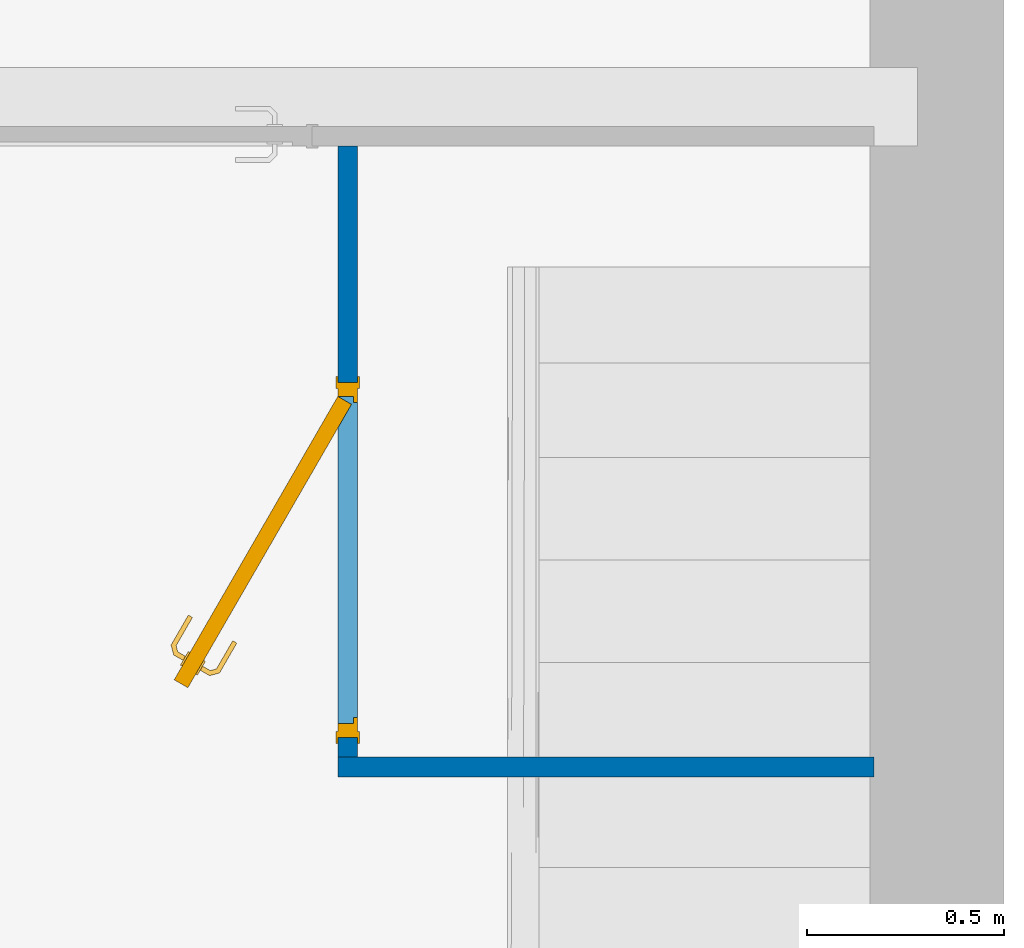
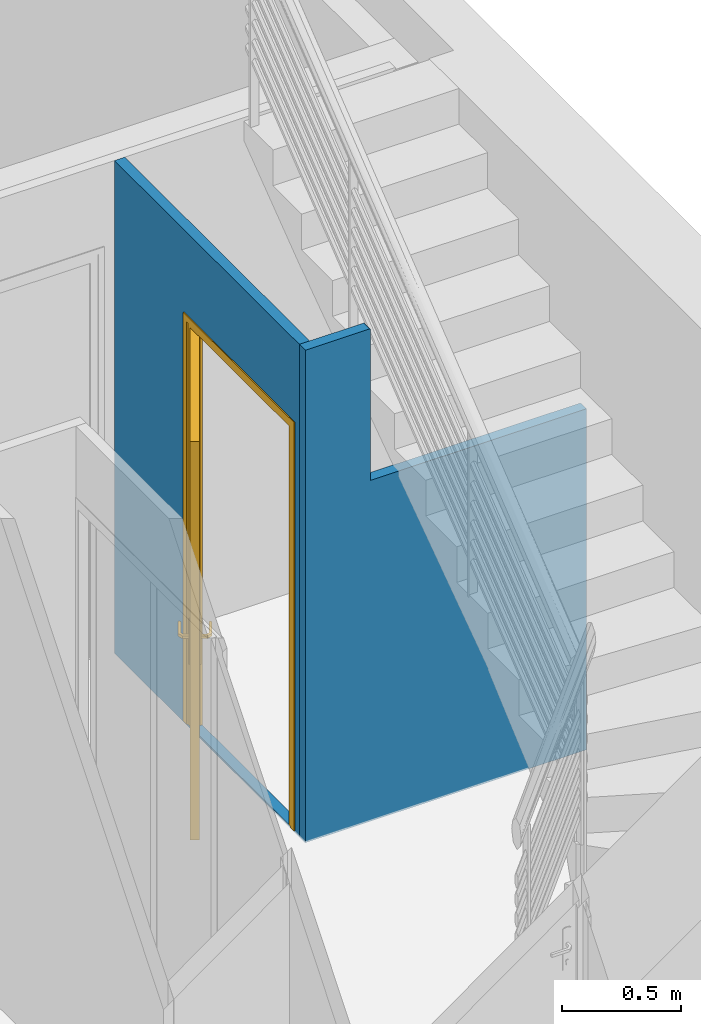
# One storey, part 4 of 9: 2 walls, 1 door, 3 openings.
"""IFC2X3 building model written with IfcOpenShell, lengths in metres."""

from ifc_helpers import new_model, entity, si_unit, converted_unit, derived_unit, direction, frame, frame_2d, origin, place, context, subcontext, project, spatial, polyline, rectangle, outline, extrude, faceted_brep, source, transform, mapped, material, material_list, layer, layer_set, layer_usage, type_object, type_shapes, element, fill, save


model = new_model("IFC2X3")

# Units and contexts
model_context = context("Model", 3, precision=1e-05, world=origin(), true_north=direction((6.12303176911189e-17, 1.0)))
body_context = subcontext(model_context, "Body", "Model", "MODEL_VIEW")
ifc_project = project(units=[si_unit("LENGTHUNIT", "METRE"), si_unit("AREAUNIT", "SQUARE_METRE"), si_unit("VOLUMEUNIT", "CUBIC_METRE"), converted_unit("PLANEANGLEUNIT", "DEGREE", entity("IfcRatioMeasure", 0.0174532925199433), si_unit("PLANEANGLEUNIT", "RADIAN"), dimensions=[0, 0, 0, 0, 0, 0, 0]), si_unit("MASSUNIT", "GRAM", prefix="KILO"), si_unit("TIMEUNIT", "SECOND"), si_unit("FREQUENCYUNIT", "HERTZ"), si_unit("THERMODYNAMICTEMPERATUREUNIT", "DEGREE_CELSIUS"), derived_unit("THERMALTRANSMITTANCEUNIT", [(si_unit("MASSUNIT", "GRAM", prefix="KILO"), 1), (si_unit("THERMODYNAMICTEMPERATUREUNIT", "KELVIN"), -1), (si_unit("TIMEUNIT", "SECOND"), -3)]), derived_unit("VOLUMETRICFLOWRATEUNIT", [(si_unit("LENGTHUNIT", "METRE"), 3), (si_unit("TIMEUNIT", "SECOND"), -1)]), si_unit("ELECTRICCURRENTUNIT", "AMPERE"), si_unit("ELECTRICVOLTAGEUNIT", "VOLT"), si_unit("POWERUNIT", "WATT"), si_unit("FORCEUNIT", "NEWTON", prefix="KILO"), si_unit("ILLUMINANCEUNIT", "LUX"), si_unit("LUMINOUSFLUXUNIT", "LUMEN"), si_unit("LUMINOUSINTENSITYUNIT", "CANDELA"), derived_unit("USERDEFINED", [(si_unit("MASSUNIT", "GRAM", prefix="KILO"), -1), (si_unit("LENGTHUNIT", "METRE"), -2), (si_unit("TIMEUNIT", "SECOND"), 3), (si_unit("LUMINOUSFLUXUNIT", "LUMEN"), 1)]), derived_unit("LINEARVELOCITYUNIT", [(si_unit("LENGTHUNIT", "METRE"), 1), (si_unit("TIMEUNIT", "SECOND"), -1)]), si_unit("PRESSUREUNIT", "PASCAL"), derived_unit("USERDEFINED", [(si_unit("LENGTHUNIT", "METRE"), -2), (si_unit("MASSUNIT", "GRAM", prefix="KILO"), 1), (si_unit("TIMEUNIT", "SECOND"), -2)])], contexts=[model_context])

# Site, building, storey
site_placement = place(None, origin())
site = spatial("IfcSite", under=ifc_project, at=site_placement, Name="Surface", CompositionType="ELEMENT")
building_placement = place(site_placement, origin())
building = spatial("IfcBuilding", under=site, at=building_placement, CompositionType="ELEMENT")
storey_placement = place(building_placement, origin())
storey = spatial("IfcBuildingStorey", under=building, at=storey_placement, Name="Rez de chaussée", CompositionType="ELEMENT", Elevation=0.0)

# Wall, openings
ifc_material_1 = material(Name="Maçonnerie - Isolant(1)")
ifc_layer = layer(ifc_material_1, 0.05)
ifc_layer_set = layer_set([ifc_layer], Name="Mur de base:Int. plâtre 50 mm")
ifc_layer_usage_1 = layer_usage(ifc_layer_set, "AXIS2", "NEGATIVE", 0.025)
wall_type = type_object("IfcWallType", Name="Mur de base:Int. plâtre 50 mm", PredefinedType="STANDARD", material=ifc_layer_set)
wall_1_placement = place(storey_placement, frame((1.43391118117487, -0.0607442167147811, -0.00999999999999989), z_axis=(0.0, 0.0, 1.0), x_axis=(-1.0, 0.0, 0.0)))
wall_1 = element("IfcWallStandardCase", 1, at=wall_1_placement, inside=storey, type_object=wall_type, material=ifc_layer_usage_1, Name="Mur de base:Int. plâtre 50 mm", ObjectType="Mur de base:Int. plâtre 50 mm", context=body_context, shape_type="SweptSolid", body=[
    extrude(rectangle(XDim=1.35999999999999, YDim=0.05, at=frame_2d((0.679999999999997, -3.46944695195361e-18), x_axis=(-1.0, 0.0))), origin(), (0.0, 0.0, 1.0), 2.52),
])
opening_1_placement = place(wall_1_placement, origin())
element("IfcOpeningElement", 2, at=opening_1_placement, cuts=wall_1, Name="Mur de base:Int. plâtre 50 mm", ObjectType="Opening", context=body_context, shape_type="SweptSolid", body=[
    extrude(rectangle(XDim=3.12955139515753, YDim=6.25910279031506, at=frame_2d((-3.33066907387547e-16, -2.22044604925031e-16), x_axis=(1.0, 0.0))), frame((-1.21361778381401, -3.12955139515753, 2.92700669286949), z_axis=(0.0, 1.0, 0.0), x_axis=(0.540430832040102, 0.0, -0.841388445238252)), (0.0, 0.0, 1.0), 6.25910279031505),
])
opening_2_placement = place(wall_1_placement, origin())
element("IfcOpeningElement", 3, at=opening_2_placement, cuts=wall_1, Name="Mur de base:Int. plâtre 50 mm", ObjectType="Opening", context=body_context, shape_type="SweptSolid", body=[
    extrude(outline(polyline([(-0.515555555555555, -0.401330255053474), (0.257777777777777, -0.401330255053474), (0.257777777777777, 0.802660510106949), (-0.515555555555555, -0.401330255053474)])), frame((0.642660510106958, -0.025, 2.00177777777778), z_axis=(0.0, 1.0, 0.0), x_axis=(0.0, 0.0, -1.0)), (0.0, 0.0, 1.0), 0.05),
])

# Wall, opening, door
ifc_layer_usage_2 = layer_usage(ifc_layer_set, "AXIS2", "NEGATIVE", 0.025)
wall_2_placement = place(storey_placement, frame((0.0989111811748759, -0.0357442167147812, -0.00999999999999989), z_axis=(0.0, 0.0, 1.0), x_axis=(0.0, 1.0, 0.0)))
wall_2 = element("IfcWallStandardCase", 4, at=wall_2_placement, inside=storey, type_object=wall_type, material=ifc_layer_usage_2, Name="Mur de base:Int. plâtre 50 mm", ObjectType="Mur de base:Int. plâtre 50 mm", context=body_context, shape_type="SweptSolid", body=[
    extrude(rectangle(XDim=1.55, YDim=0.05, at=frame_2d((0.775000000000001, 0.0), x_axis=(-1.0, 0.0))), origin(), (0.0, 0.0, 1.0), 2.52),
])
opening_3_placement = place(wall_2_placement, frame((0.0500000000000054, -0.025, 0.00999999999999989)))
opening_3 = element("IfcOpeningElement", 5, at=opening_3_placement, cuts=wall_2, Name="Int. Simple:PP (0.83m x 2.04m):1", ObjectType="Opening", context=body_context, shape_type="SweptSolid", body=[
    extrude(rectangle(XDim=2.075, YDim=0.9, at=frame_2d((1.0375, 0.45), x_axis=(1.0, 0.0))), frame((0.0, 0.0, 0.0), z_axis=(0.0, 1.0, 0.0), x_axis=(0.0, 0.0, 1.0)), (0.0, 0.0, 1.0), 0.05),
])
ifc_material_2 = material(Name="Finition Peinture - Blanc satiné")
ifc_material_3 = material(Name="Bois - Panneau de porte")
ifc_material_4 = material(Name="Bois - Cadre de porte")
ifc_material_list_1 = material_list([ifc_material_2, ifc_material_3, ifc_material_4])
ifc_material_list_2 = material_list([ifc_material_2, ifc_material_3, ifc_material_4])
door_style = type_object("IfcDoorStyle", Name="PP (0.83m x 2.04m)", ConstructionType="NOTDEFINED", OperationType="SINGLE_SWING_RIGHT", ParameterTakesPrecedence=False, Sizeable=False, material=ifc_material_list_2)
shared_shape = source(origin(), body_context, "Body", "Brep", [
    faceted_brep([(0.786660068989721, -0.399330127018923, 0.870000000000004), (0.786660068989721, -0.399330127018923, 1.08), (0.778305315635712, -0.394506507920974, 1.08399601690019), (0.769339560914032, -0.389330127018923, 1.08535898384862), (0.760373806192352, -0.384153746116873, 1.08399601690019), (0.752019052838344, -0.379330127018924, 1.08), (0.752019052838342, -0.379330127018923, 0.870000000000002), (0.760373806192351, -0.384153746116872, 0.866003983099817), (0.769339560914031, -0.389330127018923, 0.86464101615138), (0.778305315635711, -0.394506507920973, 0.866003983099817), (0.789160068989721, -0.395000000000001, 1.08), (0.789160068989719, -0.395, 0.870000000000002), (0.780805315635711, -0.390176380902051, 0.866003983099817), (0.771839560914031, -0.385, 0.86464101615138), (0.76287380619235, -0.37982361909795, 0.866003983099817), (0.754519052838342, -0.375000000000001, 0.870000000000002), (0.754519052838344, -0.375000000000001, 1.08), (0.762873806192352, -0.379823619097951, 1.08399601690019), (0.771839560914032, -0.385000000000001, 1.08535898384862), (0.780805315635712, -0.390176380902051, 1.08399601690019)], [[[0, 1, 2, 3, 4, 5, 6, 7, 8, 9]], [[10, 11, 12, 13, 14, 15, 16, 17, 18, 19]], [[9, 12, 11, 0]], [[8, 13, 12, 9]], [[7, 14, 13, 8]], [[7, 6, 15, 14]], [[15, 6, 5, 16]], [[4, 17, 16, 5]], [[3, 18, 17, 4]], [[2, 19, 18, 3]], [[2, 1, 10, 19]], [[11, 10, 1, 0]]]),
    faceted_brep([(0.809160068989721, -0.360358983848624, 0.870000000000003), (0.809160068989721, -0.360358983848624, 1.08), (0.800805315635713, -0.355535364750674, 1.08399601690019), (0.791839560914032, -0.350358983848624, 1.08535898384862), (0.782873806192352, -0.345182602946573, 1.08399601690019), (0.774519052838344, -0.340358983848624, 1.08), (0.774519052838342, -0.340358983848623, 0.870000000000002), (0.782873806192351, -0.345182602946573, 0.866003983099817), (0.791839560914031, -0.350358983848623, 0.86464101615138), (0.800805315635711, -0.355535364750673, 0.866003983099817), (0.794339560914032, -0.346028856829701, 1.08535898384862), (0.803305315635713, -0.351205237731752, 1.08399601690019), (0.811660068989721, -0.356028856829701, 1.08), (0.811660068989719, -0.356028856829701, 0.870000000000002), (0.803305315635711, -0.351205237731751, 0.866003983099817), (0.794339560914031, -0.346028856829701, 0.86464101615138), (0.785373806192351, -0.34085247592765, 0.866003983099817), (0.777019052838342, -0.336028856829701, 0.870000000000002), (0.777019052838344, -0.336028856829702, 1.08), (0.785373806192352, -0.340852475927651, 1.08399601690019)], [[[0, 1, 2, 3, 4, 5, 6, 7, 8, 9]], [[10, 11, 12, 13, 14, 15, 16, 17, 18, 19]], [[4, 19, 18, 5]], [[3, 10, 19, 4]], [[2, 11, 10, 3]], [[2, 1, 12, 11]], [[13, 12, 1, 0]], [[9, 14, 13, 0]], [[8, 15, 14, 9]], [[7, 16, 15, 8]], [[7, 6, 17, 16]], [[17, 6, 5, 18]]]),
    faceted_brep([(0.767585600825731, -0.388317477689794, 1.00778044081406), (0.771093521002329, -0.390342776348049, 1.00778044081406), (0.774535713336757, -0.392330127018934, 1.00699999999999), (0.774535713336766, -0.392330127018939, 0.992999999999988), (0.771093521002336, -0.390342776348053, 0.99221955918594), (0.767585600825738, -0.388317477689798, 0.992219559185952), (0.764143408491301, -0.386330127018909, 0.993000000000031), (0.764143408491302, -0.38633012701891, 1.007), (0.758091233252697, -0.412863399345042, 1.00778044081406), (0.760710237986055, -0.416276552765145, 1.007), (0.755422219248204, -0.409385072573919, 1.00778044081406), (0.736740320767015, -0.414390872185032, 1.00778044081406), (0.73616805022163, -0.418737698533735, 1.00778044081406), (0.752803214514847, -0.405971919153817, 1.007), (0.752803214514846, -0.405971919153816, 0.993000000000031), (0.755422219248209, -0.409385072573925, 0.992219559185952), (0.758091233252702, -0.412863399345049, 0.99221955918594), (0.736168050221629, -0.418737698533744, 0.99221955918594), (0.736740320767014, -0.414390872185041, 0.992219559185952), (0.76071023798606, -0.416276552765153, 0.992999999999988), (0.735606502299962, -0.423003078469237, 1.007), (0.737301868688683, -0.410125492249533, 1.007), (0.737301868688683, -0.410125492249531, 0.993000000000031), (0.735606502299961, -0.423003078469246, 0.992999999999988), (0.659706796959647, -0.37918236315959, 1.007), (0.661694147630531, -0.375740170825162, 1.00778044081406), (0.663719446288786, -0.372232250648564, 1.00778044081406), (0.665706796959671, -0.368790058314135, 1.00699999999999), (0.665706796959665, -0.368790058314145, 0.993000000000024), (0.663719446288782, -0.372232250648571, 0.992219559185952), (0.661694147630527, -0.375740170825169, 0.99221955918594), (0.659706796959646, -0.379182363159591, 0.992999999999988), (0.699217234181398, -0.395065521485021, 1.0078786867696), (0.70102568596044, -0.403037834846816, 1.007), (0.701504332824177, -0.389457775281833, 1.007), (0.701504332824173, -0.389457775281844, 0.993000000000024), (0.699217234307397, -0.395065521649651, 0.992121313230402), (0.701025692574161, -0.403037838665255, 0.992999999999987)], [[[0, 1, 2, 3, 4, 5, 6, 7]], [[2, 1, 8, 9]], [[1, 0, 10, 11, 12, 8]], [[0, 7, 13, 10]], [[14, 13, 7, 6]], [[5, 15, 14, 6]], [[5, 4, 16, 17, 18, 15]], [[3, 19, 16, 4]], [[9, 19, 3, 2]], [[9, 8, 12, 20]], [[10, 13, 21, 11]], [[22, 21, 13, 14]], [[14, 15, 18, 22]], [[16, 19, 23, 17]], [[20, 23, 19, 9]], [[24, 25, 26, 27, 28, 29, 30, 31]], [[32, 25, 33]], [[33, 25, 24]], [[33, 20, 12]], [[11, 34, 32]], [[34, 11, 21]], [[27, 26, 34]], [[32, 26, 25]], [[32, 34, 26]], [[32, 33, 12]], [[11, 32, 12]], [[21, 22, 35, 28, 27, 34]], [[36, 29, 35]], [[30, 36, 37]], [[18, 35, 22]], [[29, 28, 35]], [[30, 37, 31]], [[37, 17, 23]], [[36, 17, 37]], [[36, 18, 17]], [[36, 35, 18]], [[29, 36, 30]], [[23, 20, 33, 24, 31, 37]]]),
    faceted_brep([(0.792585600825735, -0.345016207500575, 0.992219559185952), (0.796093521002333, -0.34704150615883, 0.99221955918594), (0.799535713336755, -0.349028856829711, 0.992999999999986), (0.799535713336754, -0.34902885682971, 1.007), (0.796093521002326, -0.347041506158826, 1.00778044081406), (0.792585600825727, -0.345016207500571, 1.00778044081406), (0.789143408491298, -0.343028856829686, 1.007), (0.789143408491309, -0.343028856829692, 0.993000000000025), (0.8003860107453, -0.323556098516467, 1.007), (0.800386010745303, -0.323556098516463, 0.993000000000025), (0.804651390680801, -0.324117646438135, 1.00778044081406), (0.808998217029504, -0.32468991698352, 1.00778044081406), (0.803073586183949, -0.302578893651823, 1.00778044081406), (0.799595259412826, -0.305247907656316, 1.00778044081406), (0.813263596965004, -0.325251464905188, 1.007), (0.813263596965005, -0.325251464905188, 0.992999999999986), (0.808998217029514, -0.324689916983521, 0.99221955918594), (0.804651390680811, -0.324117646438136, 0.992219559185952), (0.799595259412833, -0.30524790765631, 0.992219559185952), (0.803073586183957, -0.302578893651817, 0.99221955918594), (0.796182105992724, -0.307866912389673, 1.007), (0.796182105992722, -0.307866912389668, 0.993000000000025), (0.80648673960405, -0.299959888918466, 1.007), (0.806486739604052, -0.299959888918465, 0.992999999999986), (0.726669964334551, -0.263144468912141, 1.00778044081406), (0.728695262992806, -0.259636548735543, 1.00778044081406), (0.730682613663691, -0.256194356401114, 1.007), (0.730682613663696, -0.256194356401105, 0.992999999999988), (0.72869526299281, -0.259636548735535, 0.99221955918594), (0.726669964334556, -0.263144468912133, 0.992219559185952), (0.724682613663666, -0.26658666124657, 0.993000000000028), (0.724682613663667, -0.266586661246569, 1.007), (0.760432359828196, -0.287226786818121, 1.007), (0.760432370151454, -0.28722679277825, 0.993000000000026), (0.764145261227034, -0.282442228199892, 1.0078786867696), (0.771905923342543, -0.279994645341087, 1.007), (0.771905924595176, -0.279994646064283, 0.992999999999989), (0.764145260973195, -0.282442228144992, 0.992121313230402)], [[[0, 1, 2, 3, 4, 5, 6, 7]], [[8, 9, 7, 6]], [[5, 10, 8, 6]], [[5, 4, 11, 12, 13, 10]], [[3, 14, 11, 4]], [[14, 3, 2, 15]], [[2, 1, 16, 15]], [[1, 0, 17, 18, 19, 16]], [[0, 7, 9, 17]], [[20, 21, 9, 8]], [[8, 10, 13, 20]], [[14, 22, 12, 11]], [[23, 22, 14, 15]], [[15, 16, 19, 23]], [[17, 9, 21, 18]], [[24, 25, 26, 27, 28, 29, 30, 31]], [[21, 20, 32, 31, 30, 33]], [[34, 24, 32]], [[25, 34, 35]], [[13, 32, 20]], [[24, 31, 32]], [[25, 35, 26]], [[35, 12, 22]], [[34, 12, 35]], [[34, 13, 12]], [[34, 32, 13]], [[24, 34, 25]], [[22, 23, 36, 27, 26, 35]], [[37, 28, 36]], [[36, 28, 27]], [[36, 23, 19]], [[18, 33, 37]], [[33, 18, 21]], [[30, 29, 33]], [[37, 29, 28]], [[37, 33, 29]], [[37, 36, 19]], [[18, 37, 19]]]),
    faceted_brep([(0.843801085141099, -0.380358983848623, 2.04), (0.843801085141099, -0.380358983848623, 0.0), (0.125000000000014, 0.0346410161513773, 0.0), (0.125000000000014, 0.0346410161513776, 2.04), (0.823801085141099, -0.415, 2.04), (0.105000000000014, 0.0, 2.04), (0.105000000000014, 0.0, 0.0), (0.823801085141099, -0.415, 0.0)], [[[0, 1, 2, 3]], [[4, 5, 6, 7]], [[3, 5, 4, 0]], [[2, 6, 5, 3]], [[1, 7, 6, 2]], [[0, 4, 7, 1]]]),
    faceted_brep([(0.970000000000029, 0.0, 0.0), (0.935000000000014, 0.0, 0.0), (0.935000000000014, 0.040000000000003, 0.0), (0.920000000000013, 0.040000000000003, 0.0), (0.920000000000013, 0.050000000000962, 0.0), (0.970000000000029, 0.050000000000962, 0.0), (0.970000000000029, 0.050000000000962, 2.07500000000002), (0.970000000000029, 0.0, 2.07500000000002), (0.920000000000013, 0.050000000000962, 2.025), (0.120000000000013, 0.050000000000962, 2.025), (0.120000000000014, 0.050000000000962, 0.0), (0.0699999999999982, 0.050000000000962, 0.0), (0.0699999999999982, 0.050000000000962, 2.07500000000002), (0.920000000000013, 0.040000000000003, 2.025), (0.935000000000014, 0.040000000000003, 2.04), (0.105000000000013, 0.040000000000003, 2.04), (0.105000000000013, 0.040000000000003, 0.0), (0.120000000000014, 0.040000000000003, 0.0), (0.120000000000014, 0.040000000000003, 2.025), (0.935000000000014, 0.0, 2.04), (0.069999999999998, 0.0, 2.07500000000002), (0.0699999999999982, 0.0, 0.0), (0.105000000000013, 0.0, 0.0), (0.105000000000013, 0.0, 2.04)], [[[0, 1, 2, 3, 4, 5]], [[5, 6, 7, 0]], [[4, 8, 9, 10, 11, 12, 6, 5]], [[3, 13, 8, 4]], [[2, 14, 15, 16, 17, 18, 13, 3]], [[1, 19, 14, 2]], [[0, 7, 20, 21, 22, 23, 19, 1]], [[12, 11, 21, 20]], [[21, 11, 10, 17, 16, 22]], [[18, 17, 10, 9]], [[23, 22, 16, 15]], [[6, 12, 20, 7]], [[13, 18, 9, 8]], [[19, 23, 15, 14]]]),
    faceted_brep([(0.955000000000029, 0.050000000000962, 0.0), (0.955000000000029, 0.055000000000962, 0.0), (0.985000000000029, 0.055000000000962, 0.0), (0.985000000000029, 0.050000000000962, 0.0), (0.985000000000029, 0.050000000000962, 2.09000000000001), (0.0550000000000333, 0.050000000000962, 2.09000000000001), (0.0550000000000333, 0.050000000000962, 0.0), (0.0850000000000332, 0.050000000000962, 0.0), (0.0850000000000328, 0.050000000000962, 2.06000000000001), (0.955000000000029, 0.050000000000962, 2.06000000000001), (0.985000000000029, 0.055000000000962, 2.09000000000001), (0.955000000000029, 0.055000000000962, 2.06000000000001), (0.0850000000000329, 0.055000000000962, 2.06000000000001), (0.0850000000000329, 0.055000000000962, 0.0), (0.055000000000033, 0.055000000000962, 0.0), (0.0550000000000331, 0.055000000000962, 2.09000000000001)], [[[0, 1, 2, 3]], [[3, 4, 5, 6, 7, 8, 9, 0]], [[2, 10, 4, 3]], [[1, 11, 12, 13, 14, 15, 10, 2]], [[0, 9, 11, 1]], [[7, 6, 14, 13]], [[8, 7, 13, 12]], [[15, 14, 6, 5]], [[10, 15, 5, 4]], [[9, 8, 12, 11]]]),
    faceted_brep([(0.985000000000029, -0.005, 0.0), (0.985000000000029, -0.005, 2.09000000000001), (0.0550000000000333, -0.005, 2.09000000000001), (0.0550000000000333, -0.005, 0.0), (0.0850000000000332, -0.005, 0.0), (0.0850000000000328, -0.005, 2.06000000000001), (0.955000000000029, -0.005, 2.06000000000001), (0.955000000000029, -0.005, 0.0), (0.985000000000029, 0.0, 0.0), (0.985000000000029, 0.0, 2.09000000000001), (0.955000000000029, 0.0, 0.0), (0.955000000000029, 0.0, 2.06000000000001), (0.0850000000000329, 0.0, 2.06000000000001), (0.0850000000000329, 0.0, 0.0), (0.055000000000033, 0.0, 0.0), (0.0550000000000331, 0.0, 2.09000000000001)], [[[0, 1, 2, 3, 4, 5, 6, 7]], [[8, 9, 1, 0]], [[10, 11, 12, 13, 14, 15, 9, 8]], [[7, 6, 11, 10]], [[5, 4, 13, 12]], [[15, 14, 3, 2]], [[9, 15, 2, 1]], [[6, 5, 12, 11]], [[4, 3, 14, 13]], [[7, 10, 8, 0]]]),
])
type_shapes(door_style, [shared_shape])
door_placement = place(opening_3_placement, frame((0.970000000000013, 0.05, 0.0), z_axis=(0.0, 0.0, 1.0), x_axis=(-1.0, 0.0, 0.0)))
door = element("IfcDoor", 6, at=door_placement, inside=storey, type_object=door_style, material=ifc_material_list_1, Name="Int. Simple:PP (0.83m x 2.04m)", ObjectType="PP (0.83m x 2.04m)", OverallHeight=2.075, OverallWidth=0.9, context=body_context, shape_type="MappedRepresentation", body=[
    mapped(shared_shape, transform((0.0, 0.0, 0.0), scale=1.0)),
])
fill(opening_3, door)

save(model, "model.ifc")
